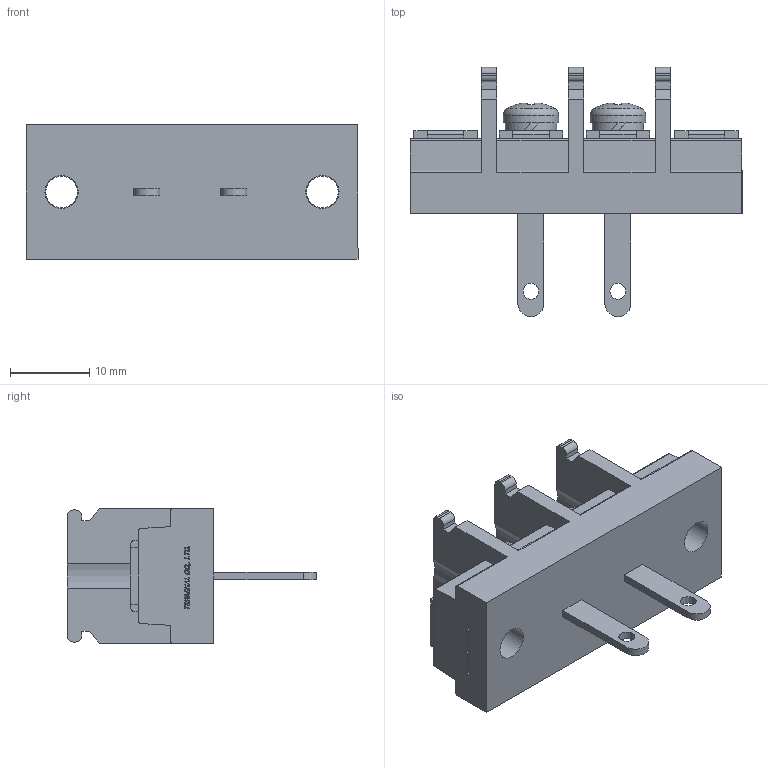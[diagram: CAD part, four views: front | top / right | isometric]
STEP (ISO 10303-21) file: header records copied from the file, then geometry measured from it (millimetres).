
FILE_DESCRIPTION(/* description */ ('Alibre Inc.'),/* implementation_level */ '2;1');
FILE_NAME(/* name */ 'export0',/* time_stamp */ '2015-10-19T19:13:06+09:00',/* author */ (''),/* organization */ (''),/* preprocessor_version */ 'ST-DEVELOPER v14',/* originating_system */ 'Alibre',/* authorisation */ '');
FILE_SCHEMA (('CONFIG_CONTROL_DESIGN'));
Length unit declared in the file: centimetre
Products named in the file (1): ID_1
Bounding box: 42 x 31.5 x 17 mm (x, y, z)
Volume: 7197.5 mm3; surface area: 4423.6 mm2
Topology: 1 solids, 1 shells, 596 faces, 1630 edges, 1086 vertices
Faces by surface type: plane 422, bspline 104, cylinder 56, cone 8, torus 4, sphere 2
Full cylindrical faces by diameter (mm): 2 x2, 4 x4, 4.2 x2, 6.5 x2, 7 x2
Entity records: 18331 total; most frequent: CARTESIAN_POINT 4264, ORIENTED_EDGE 3212, DIRECTION 2101, EDGE_CURVE 1606, VECTOR 1207, LINE 1207, VERTEX_POINT 1076, EDGE_LOOP 672
